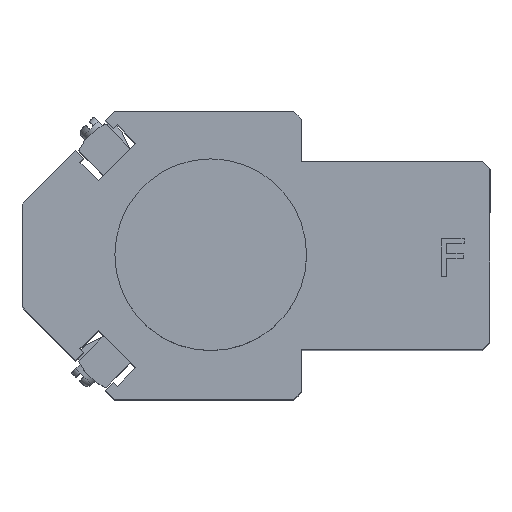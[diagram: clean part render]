
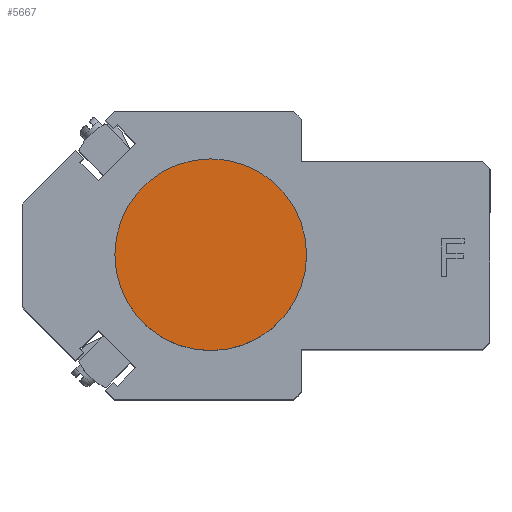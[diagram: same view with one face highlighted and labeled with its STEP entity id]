
A CAD part, top view. The second image highlights one B-rep face of the part: STEP entity #5667.
In plain terms, the highlighted planar face has unit normal (0, 0, 1) as drawn and (1, 0, 0) by its records, which use the part's own axes.
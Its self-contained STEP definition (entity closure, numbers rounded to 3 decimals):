
#477=PLANE('',#6488);
#763=FACE_OUTER_BOUND('',#1097,.T.);
#1097=EDGE_LOOP('',(#5253,#5254));
#2369=CIRCLE('',#6489,12.7);
#2370=CIRCLE('',#6490,12.7);
#2914=VERTEX_POINT('',#9882);
#2915=VERTEX_POINT('',#9883);
#3701=EDGE_CURVE('',#2914,#2915,#2369,.T.);
#3702=EDGE_CURVE('',#2915,#2914,#2370,.T.);
#5253=ORIENTED_EDGE('',*,*,#3701,.F.);
#5254=ORIENTED_EDGE('',*,*,#3702,.F.);
#5667=ADVANCED_FACE('',(#763),#477,.T.);
#6488=AXIS2_PLACEMENT_3D('',#9881,#8103,#8104);
#6489=AXIS2_PLACEMENT_3D('',#9884,#8105,#8106);
#6490=AXIS2_PLACEMENT_3D('',#9885,#8107,#8108);
#8103=DIRECTION('center_axis',(1.,0.,0.));
#8104=DIRECTION('ref_axis',(0.,0.,-1.));
#8105=DIRECTION('center_axis',(-1.,0.,0.));
#8106=DIRECTION('ref_axis',(0.,-1.,0.));
#8107=DIRECTION('center_axis',(-1.,0.,0.));
#8108=DIRECTION('ref_axis',(0.,-1.,0.));
#9881=CARTESIAN_POINT('Origin',(13.,-6.35,0.));
#9882=CARTESIAN_POINT('',(13.,-12.7,0.));
#9883=CARTESIAN_POINT('',(13.,12.7,0.));
#9884=CARTESIAN_POINT('Origin',(13.,0.,0.));
#9885=CARTESIAN_POINT('Origin',(13.,0.,0.));
